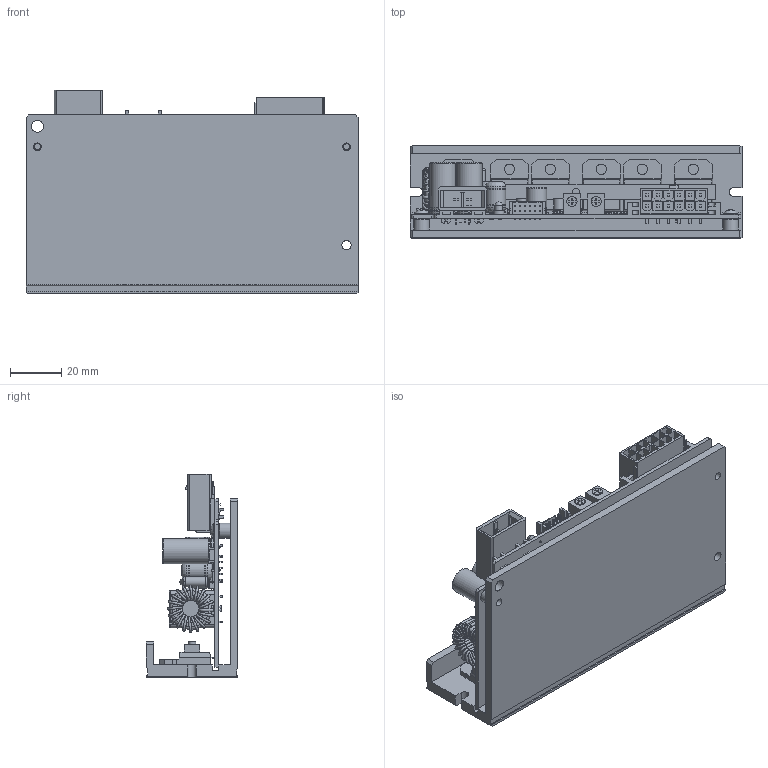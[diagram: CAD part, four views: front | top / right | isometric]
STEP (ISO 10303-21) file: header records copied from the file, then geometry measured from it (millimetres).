
FILE_DESCRIPTION((''),'2;1');
FILE_NAME('C:\Users\kdhkdh\Desktop\XFD100.stp','2015-04-23T09:08:10',('kdhkdh'),(''),'Autodesk Inventor 2013','Autodesk Inventor 2013','');
FILE_SCHEMA(('AUTOMOTIVE_DESIGN { 1 0 10303 214 1 1 1 1 }'));
Length unit declared in the file: millimetre
Products named in the file (1): 부품32
Bounding box: 130 x 36 x 79.6 mm (x, y, z)
Volume: 88193.8 mm3; surface area: 68784.7 mm2
Topology: 6 solids, 8 shells, 3699 faces, 10490 edges, 6805 vertices
Faces by surface type: plane 2752, cylinder 742, bspline 119, torus 55, sphere 17, cone 14
Full cylindrical faces by diameter (mm): 0.5 x8, 1 x44, 2.5 x2, 3 x9, 3.35 x6, 3.5 x3, 3.6 x1, 4 x15, 4.6 x1, 5.5 x3, 5.6 x2, 6 x2, 7 x2, 7.8 x2, 7.9 x2, 8 x8, 8.6 x1, 10 x4, 16.4 x1
Entity records: 163527 total; most frequent: CARTESIAN_POINT 65306, ORIENTED_EDGE 20514, DIRECTION 19055, EDGE_CURVE 10257, VECTOR 8285, LINE 8285, VERTEX_POINT 6754, AXIS2_PLACEMENT_3D 5385
